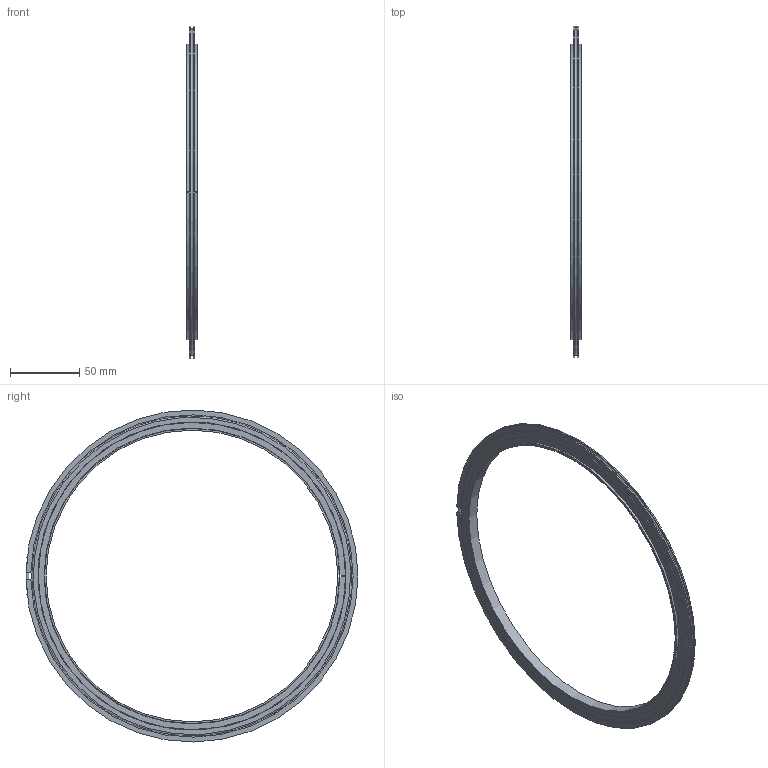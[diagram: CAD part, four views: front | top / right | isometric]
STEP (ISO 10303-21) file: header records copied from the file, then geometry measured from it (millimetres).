
FILE_DESCRIPTION(/* description */ (''),/* implementation_level */ '2;1');
FILE_NAME(/* name */ 'W:\BV6 Bereinigung Step-Files Zentrierringe ISO-K\M212-284.stp',/* time_stamp */ '2018-05-15T14:47:31+02:00',/* author */ ('KAA'),/* organization */ (''),/* preprocessor_version */ 'ST-DEVELOPER v16.1',/* originating_system */ 'Autodesk Inventor 2016',/* authorisation */ '');
FILE_SCHEMA (('CONFIG_CONTROL_DESIGN'));
Length unit declared in the file: millimetre
Products named in the file (1): M212-284
Bounding box: 8 x 238.97 x 238.99 mm (x, y, z)
Volume: 40886.4 mm3; surface area: 34359.8 mm2
Topology: 1 solids, 1 shells, 35 faces, 105 edges, 70 vertices
Faces by surface type: plane 18, cylinder 11, torus 4, cone 2
Entity records: 1310 total; most frequent: CARTESIAN_POINT 308, DIRECTION 194, ORIENTED_EDGE 192, EDGE_CURVE 96, AXIS2_PLACEMENT_3D 74, VERTEX_POINT 66, LINE 46, VECTOR 46
